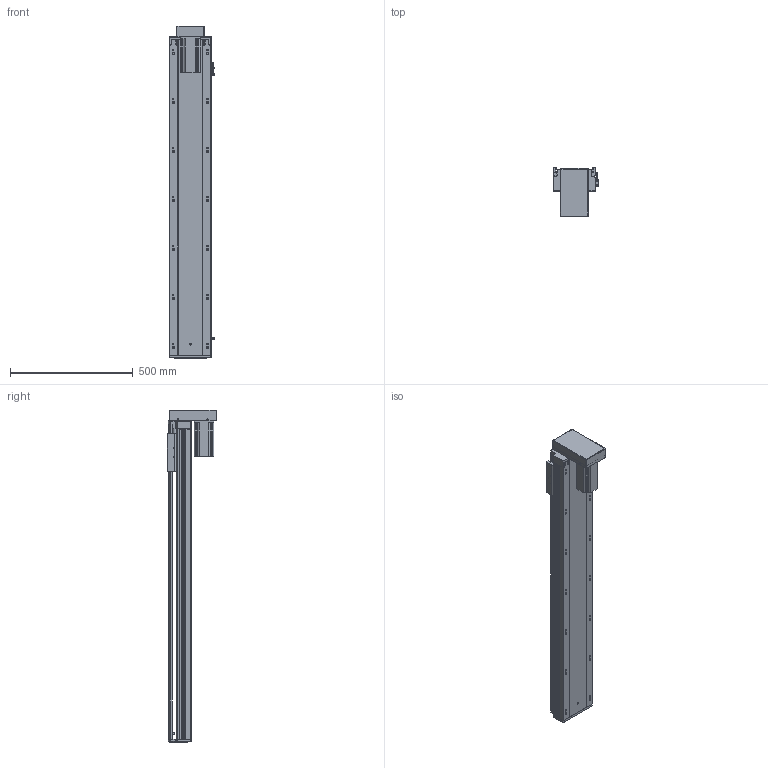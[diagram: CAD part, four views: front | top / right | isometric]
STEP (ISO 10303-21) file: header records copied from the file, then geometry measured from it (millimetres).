
FILE_DESCRIPTION (( 'STEP AP203' ), '1' );
FILE_NAME ('RY170-L2510-300-BK.SLDASM_1050.step', '2021-03-12T08:57:17', ( '盈信电脑' ), ( '东莞市道滘镇水果街19号' ), 'SwSTEP 2.0', 'SolidWorks 2012', '' );
FILE_SCHEMA (( 'CONFIG_CONTROL_DESIGN' ));
Length unit declared in the file: millimetre
Products named in the file (14): RY170转折电机端支撑座(7004); RY170-狟殏萇儂假蚾啣; RY170狟殏萇儂欶; 滅袉蝶18-20; RY170外置感应片(200共用）; 覜茼ん672; 滅袉蝶18-10; 改造-RY170铝滑块25丝杆螺母; RY170-300倰第裔啣-BK_1050; RY170綴裔啣; RY170-300倰第菁釱-BK_1050; RY170-狟殏750W萇儂傷; RY170-L2510-300-BK.SLDASM_1050; 怢湛750W萇儂ㄗ80遺ㄘ
Assembly tree (15 placements, depth 3):
  RY170-L2510-300-BK.SLDASM_1050
    RY170-300倰第菁釱-BK_1050
    改造-RY170铝滑块25丝杆螺母
    RY170-300倰第裔啣-BK_1050
    RY170綴裔啣
    覜茼ん672  x3
    RY170外置感应片(200共用）
    滅袉蝶18-20
    滅袉蝶18-10
    RY170转折电机端支撑座(7004)
    RY170-狟殏750W萇儂傷
      RY170-狟殏萇儂假蚾啣
      RY170狟殏萇儂欶
      怢湛750W萇儂ㄗ80遺ㄘ
Bounding box: 183.7 x 200.8 x 1354.5 mm (x, y, z)
Volume: 7406889 mm3; surface area: 2309121.6 mm2
Topology: 14 solids, 14 shells, 2172 faces, 6209 edges, 3976 vertices
Faces by surface type: plane 1080, cylinder 883, cone 190, bspline 19
Entity records: 69818 total; most frequent: CARTESIAN_POINT 16611, ORIENTED_EDGE 11130, DIRECTION 10337, EDGE_CURVE 5565, VERTEX_POINT 3656, VECTOR 3457, LINE 3457, AXIS2_PLACEMENT_3D 3440
